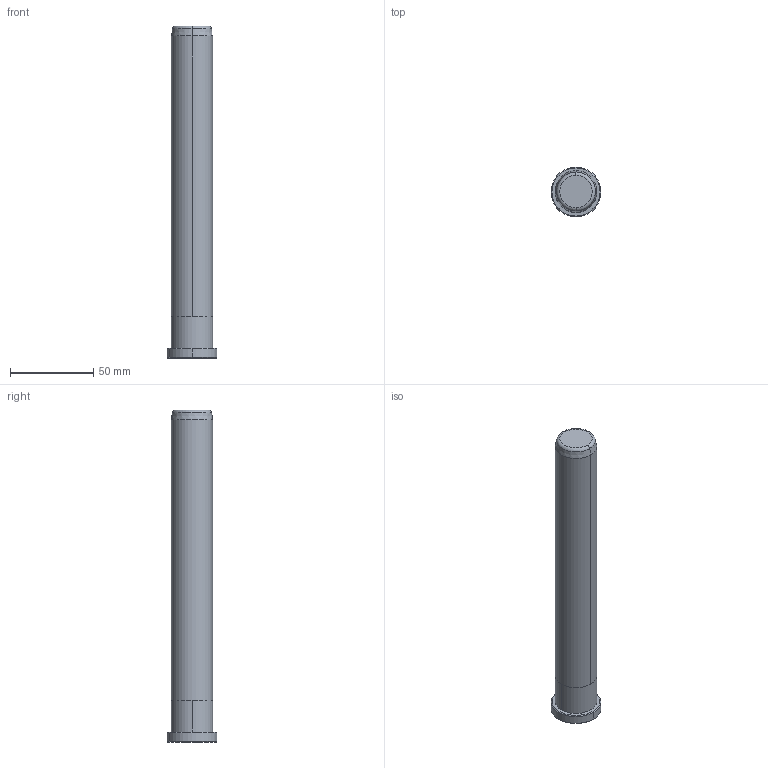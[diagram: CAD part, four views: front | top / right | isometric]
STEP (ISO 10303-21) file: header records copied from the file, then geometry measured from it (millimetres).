
FILE_DESCRIPTION((''),'2;1');
FILE_NAME('B80825200','2018-01-06T',('MANU'),(''),'PRO/ENGINEER BY PARAMETRIC TECHNOLOGY CORPORATION, 2012130','PRO/ENGINEER BY PARAMETRIC TECHNOLOGY CORPORATION, 2012130','');
FILE_SCHEMA(('CONFIG_CONTROL_DESIGN'));
Length unit declared in the file: millimetre
Products named in the file (1): B80825200
Bounding box: 30 x 30 x 200 mm (x, y, z)
Volume: 99180.6 mm3; surface area: 17026.8 mm2
Topology: 1 solids, 1 shells, 18 faces, 34 edges, 20 vertices
Faces by surface type: cone 6, cylinder 6, plane 4, torus 2
Entity records: 494 total; most frequent: DIRECTION 92, CARTESIAN_POINT 72, ORIENTED_EDGE 68, AXIS2_PLACEMENT_3D 40, EDGE_CURVE 34, CIRCLE 22, VERTEX_POINT 20, EDGE_LOOP 20
